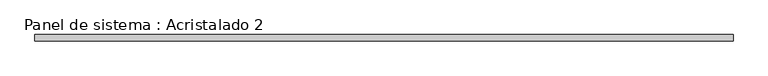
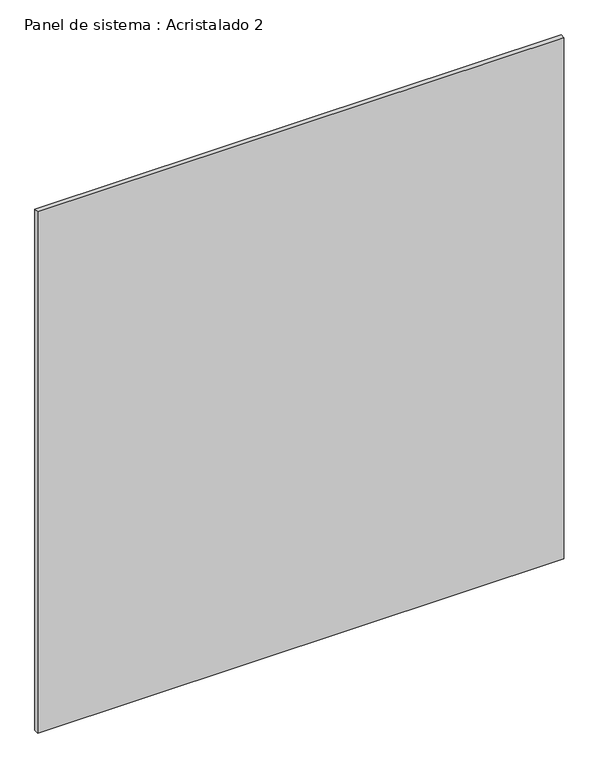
"""IFC4 building model written with IfcOpenShell, lengths in millimetres: plate geometry, Panel de sistema : Acristalado 2."""

from ifc_helpers import new_model, si_unit, origin, origin_with_axes, place, context, project, spatial, polyline, outline, extrude, source, transform, mapped, element, save


def panel_de_sistema_acristalado_2_678063c6(model_context):
    return source(origin(), model_context, "Body", "SweptSolid", [
        extrude(outline(polyline([(1104.1776503, 20.0), (-1104.1776503, 20.0), (-1104.1776503, 40.0), (1104.1776503, 40.0), (1104.1776503, 20.0)])), origin_with_axes(), (0.0, 0.0, 1.0), 2312.2580201),
    ])


if __name__ == "__main__":
    model = new_model("IFC4")
    model_context = context("Model", 3, world=origin())
    ifc_project = project(units=[si_unit("LENGTHUNIT", "METRE", prefix="MILLI")], contexts=[model_context])
    site = spatial("IfcSite", under=ifc_project)
    building = spatial("IfcBuilding", under=site)
    placement = place(None, origin())
    panel_de_sistema_acristalado_2_shape = panel_de_sistema_acristalado_2_678063c6(model_context)
    element("IfcPlate", 1, ObjectType="Panel de sistema : Acristalado 2", at=placement, inside=building, context=model_context, shape_type="MappedRepresentation", body=[
        mapped(panel_de_sistema_acristalado_2_shape, transform((0.0, 0.0, 0.0), x_axis=(1.0, 0.0, 0.0), y_axis=(0.0, 1.0, 0.0), z_axis=(0.0, 0.0, 1.0))),
    ])
    save(model, "model.ifc")
